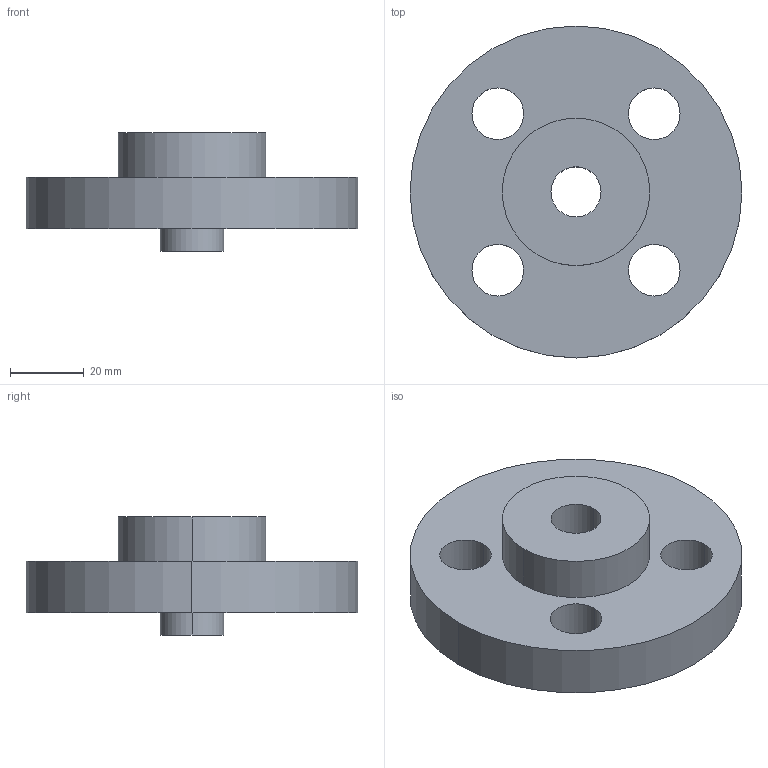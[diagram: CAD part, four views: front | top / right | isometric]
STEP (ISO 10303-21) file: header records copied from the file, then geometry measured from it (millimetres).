
FILE_DESCRIPTION (( 'STEP AP214' ), '1' );
FILE_NAME ('PN40 DN10 Type 04 in 34 - (Type A Face).STEP', '2018-12-29T05:17:04', ( '' ), ( '' ), 'SwSTEP 2.0', 'SolidWorks 2019', '' );
FILE_SCHEMA (( 'AUTOMOTIVE_DESIGN' ));
Length unit declared in the file: millimetre
Products named in the file (1): PN40 DN10 Type 04 in 34 - (Type A Face)
Bounding box: 90 x 90 x 32 mm (x, y, z)
Volume: 85554.6 mm3; surface area: 23645.3 mm2
Topology: 2 solids, 2 shells, 29 faces, 66 edges, 42 vertices
Faces by surface type: cylinder 18, cone 6, plane 5
Entity records: 901 total; most frequent: DIRECTION 168, CARTESIAN_POINT 138, ORIENTED_EDGE 132, AXIS2_PLACEMENT_3D 72, EDGE_CURVE 66, CIRCLE 42, VERTEX_POINT 42, EDGE_LOOP 42
